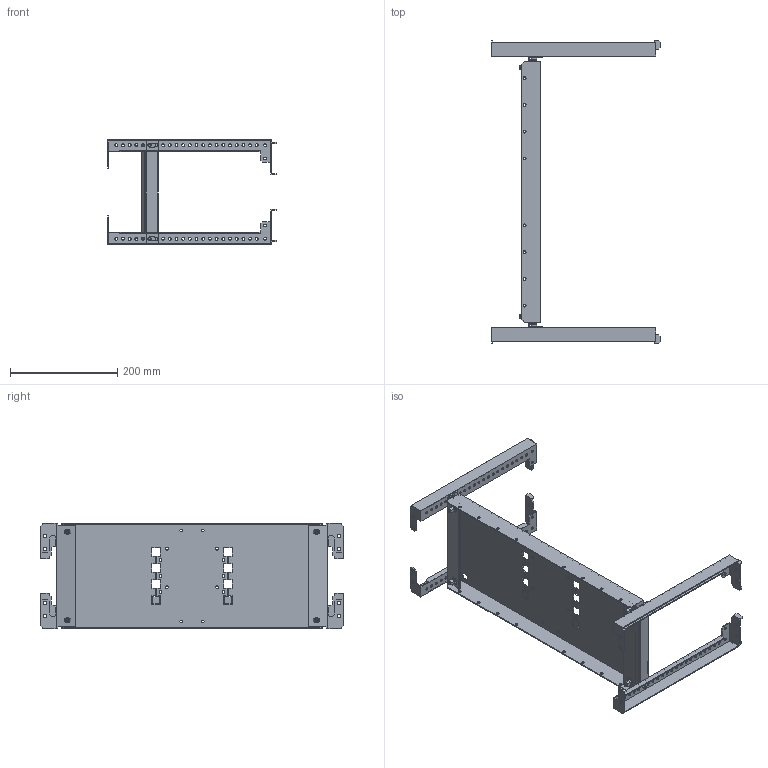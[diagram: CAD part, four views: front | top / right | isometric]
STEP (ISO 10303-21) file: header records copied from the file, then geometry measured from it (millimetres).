
FILE_DESCRIPTION (( 'STEP AP214' ), '1' );
FILE_NAME ('FO-00-ADF-020-060 Êîìïëåêò ãîðèçîíòàëüíîé óñòàíîâêè ARMAT MCCB òèïîðàçìåð AIID ôèêñèðîâàííîãî èñïîëíåíèÿ 3II4P 200õ600 ìì.STEP', '2025-07-16T07:19:24', ( '' ), ( '' ), 'SwSTEP 2.0', 'SolidWorks 2023', '' );
FILE_SCHEMA (( 'AUTOMOTIVE_DESIGN' ));
Length unit declared in the file: millimetre
Products named in the file (5): Траверса горизонтальная; FO-00-ADF-020-060 Комплект горизонтальной установки ARMAT MCCB типоразмер AIID фиксированного исполнения 3II4P 200х600 мм; Винты DIN 912 4xM6x20 500; Панель монтажная 500x600; Траверса горизонтальнаяD
Assembly tree (6 placements, depth 2):
  FO-00-ADF-020-060 Комплект горизонтальной установки ARMAT MCCB типоразмер AIID фиксированного исполнения 3II4P 200х600 мм
    Винты DIN 912 4xM6x20 500
    Панель монтажная 500x600
    Траверса горизонтальная  x2
    Траверса горизонтальнаяD  x2
Bounding box: 314.5 x 565.63 x 197 mm (x, y, z)
Volume: 502852.7 mm3; surface area: 520244 mm2
Topology: 9 solids, 13 shells, 1098 faces, 3004 edges, 1980 vertices
Faces by surface type: plane 530, cylinder 480, cone 56, torus 32
Entity records: 28987 total; most frequent: CARTESIAN_POINT 5867, DIRECTION 4852, ORIENTED_EDGE 4676, EDGE_CURVE 2338, AXIS2_PLACEMENT_3D 1713, VERTEX_POINT 1536, LINE 1426, VECTOR 1426
